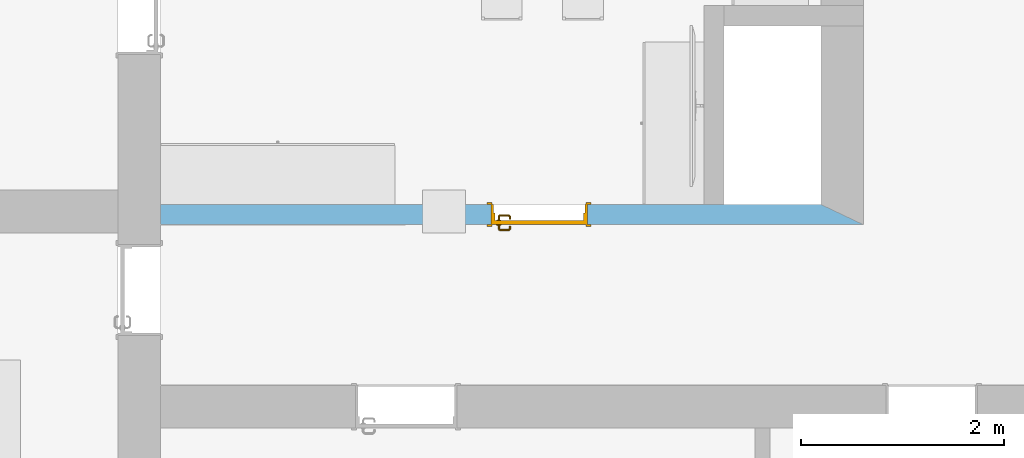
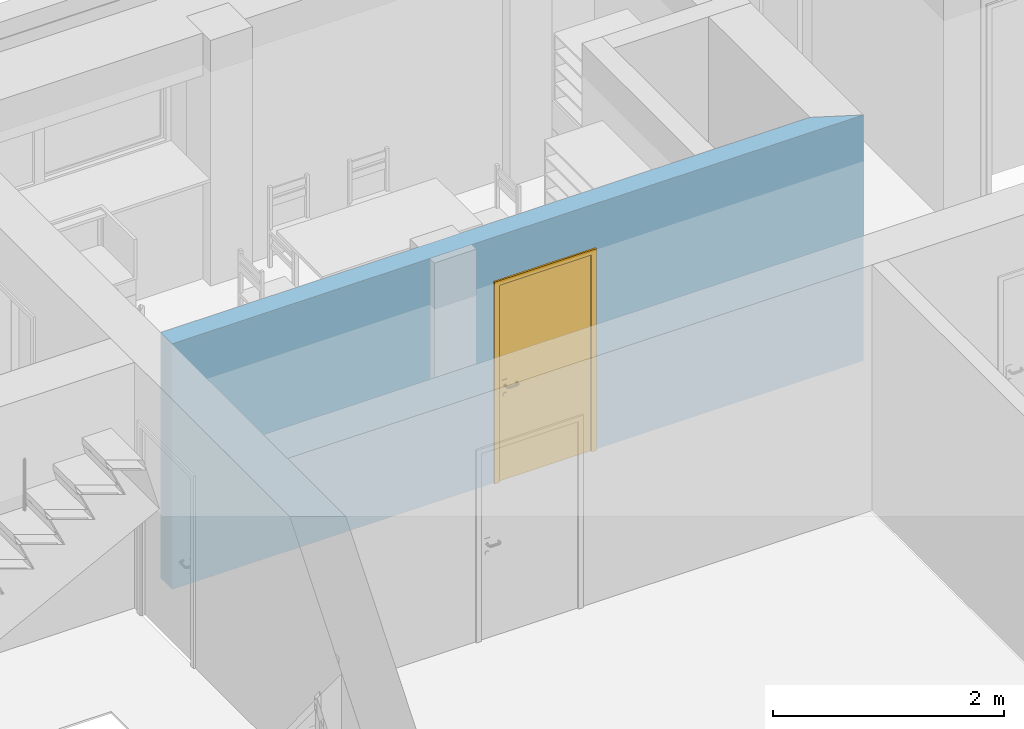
# One storey, part 43 of 127: 1 door, 1 opening, plus 1 element that does not belong to this part.
"""IFC2X3 building model written with IfcOpenShell, lengths in millimetres."""

from ifc_helpers import new_model, entity, si_unit, converted_unit, derived_unit, money_unit, direction, frame, origin_with_axes, origin_2d_with_axis, place, context, subcontext, project, spatial, polyline, rectangle, outline, extrude, open_shell, faceted_brep, surface_model, material, layer, layer_set, layer_usage, type_object, element, fill, save


model = new_model("IFC2X3")

# Units and contexts
model_context = context("Model", 3, precision=1e-05, world=origin_with_axes(), true_north=direction((0.0, 1.0)))
body_context = subcontext(model_context, "Body", "Model", "MODEL_VIEW")
ifc_project = project(units=[si_unit("LENGTHUNIT", "METRE", prefix="MILLI"), si_unit("AREAUNIT", "SQUARE_METRE"), si_unit("VOLUMEUNIT", "CUBIC_METRE"), converted_unit("PLANEANGLEUNIT", "DEGREE", entity("IfcPlaneAngleMeasure", 0.0174532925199), si_unit("PLANEANGLEUNIT", "RADIAN"), dimensions=[0, 0, 0, 0, 0, 0, 0]), si_unit("SOLIDANGLEUNIT", "STERADIAN"), money_unit("EUR"), converted_unit("TIMEUNIT", "Year", entity("IfcTimeMeasure", 31556926.0), si_unit("TIMEUNIT", "SECOND"), dimensions=[0, 0, 1, 0, 0, 0, 0]), si_unit("MASSUNIT", "GRAM", prefix="KILO"), si_unit("THERMODYNAMICTEMPERATUREUNIT", "DEGREE_CELSIUS"), si_unit("LUMINOUSINTENSITYUNIT", "LUMEN"), si_unit("ENERGYUNIT", "JOULE", prefix="MEGA"), derived_unit("THERMALCONDUCTANCEUNIT", [(si_unit("POWERUNIT", "WATT"), 1), (si_unit("LENGTHUNIT", "METRE"), -1), (si_unit("THERMODYNAMICTEMPERATUREUNIT", "KELVIN"), -1)]), derived_unit("SPECIFICHEATCAPACITYUNIT", [(si_unit("ENERGYUNIT", "JOULE"), 1), (si_unit("MASSUNIT", "GRAM", prefix="KILO"), -1), (si_unit("THERMODYNAMICTEMPERATUREUNIT", "KELVIN"), -1)]), derived_unit("MASSDENSITYUNIT", [(si_unit("MASSUNIT", "GRAM", prefix="KILO"), 1), (si_unit("VOLUMEUNIT", "CUBIC_METRE"), -1)])], contexts=[model_context])

# Site, building, storey
site_placement = place(None, origin_with_axes())
site = spatial("IfcSite", under=ifc_project, at=site_placement, Name="Site", CompositionType="ELEMENT")
building_placement = place(site_placement, origin_with_axes())
building = spatial("IfcBuilding", under=site, at=building_placement, Name="Building", CompositionType="ELEMENT")
storey_placement = place(building_placement, origin_with_axes())
storey = spatial("IfcBuildingStorey", under=building, at=storey_placement, Name="1 KORRUS", CompositionType="ELEMENT", Elevation=0.0)

# Wall, opening, door
ifc_material = material(Name="Kivi -Ol.Olev Konstruktsioon")
ifc_layer = layer(ifc_material, 200.0, ventilated="UNKNOWN")
ifc_layer_set = layer_set([ifc_layer], Name="ol.olev ss 200")
ifc_layer_usage = layer_usage(ifc_layer_set, "AXIS2", "POSITIVE", 0.0)
wall_type = type_object("IfcWallType", Name="SW - 023", PredefinedType="NOTDEFINED")
wall_placement = place(storey_placement, frame((30733.8006358, 42682.4199075, 0.0), z_axis=(0.0, 0.0, 1.0), x_axis=(1.0, 0.0, 0.0)))
wall = element("IfcWallStandardCase", 1, at=wall_placement, inside=storey, type_object=wall_type, material=ifc_layer_usage, Name="ol.olev ss 200", context=body_context, shape_type="SweptSolid", body=[
    extrude(outline(polyline([(420.0, 0.0), (7339.91916926, 0.0), (6919.91916926, 200.0), (420.0, 200.0), (420.0, 0.0)])), origin_with_axes(), (0.0, 0.0, 1.0), 2600.0),
])
opening_placement = place(wall_placement, frame((4146.81137721, 0.0, 0.0), z_axis=(0.0, 0.0, 1.0), x_axis=(1.0, 0.0, 0.0)))
opening = element("IfcOpeningElement", 2, at=opening_placement, cuts=wall, Name="Siseuks * Door 22", context=body_context, shape_type="SweptSolid", body=[
    extrude(rectangle(XDim=950.0, YDim=2100.0, at=origin_2d_with_axis()), frame((0.0, 200.0, 1050.0), z_axis=(0.0, 1.0, 0.0), x_axis=(1.0, 0.0, 0.0)), (0.0, 0.0, -1.0), 600.0),
    extrude(rectangle(XDim=1024.0, YDim=2137.0, at=origin_2d_with_axis()), frame((0.0, 200.0, 1068.5), z_axis=(0.0, 1.0, 0.0), x_axis=(1.0, 0.0, 0.0)), (0.0, 0.0, 1.0), 200.0),
    extrude(rectangle(XDim=1024.0, YDim=2137.0, at=origin_2d_with_axis()), frame((0.0, 0.0, 1068.5), z_axis=(0.0, -1.0, 0.0), x_axis=(1.0, 0.0, 0.0)), (0.0, 0.0, 1.0), 200.0),
])
door_style = type_object("IfcDoorStyle", Name="SU-B108   950×2\xa0100", ConstructionType="NOTDEFINED", OperationType="SINGLE_SWING_LEFT", ParameterTakesPrecedence=False, Sizeable=False)
door_placement = place(opening_placement, frame((475.0, 0.0, 0.0), z_axis=(0.0, 0.0, 1.0), x_axis=(-1.0, 0.0, 0.0)))
door = element("IfcDoor", 3, at=door_placement, inside=storey, type_object=door_style, Name="Siseuks * Door 22", OverallHeight=2100.0, OverallWidth=950.0, context=body_context, shape_type="SurfaceModel", body=[
    faceted_brep([(950.0, -115.0, 0.0), (950.0, -200.0, 0.0), (925.0, -200.0, 0.0), (925.0, -115.0, 0.0), (950.0, -115.0, 2100.0), (950.0, -200.0, 2100.0), (925.0, -200.0, 2075.0), (925.0, -115.0, 2075.0)], [[[0, 1, 2, 3]], [[4, 5, 1, 0]], [[1, 5, 6, 2]], [[3, 2, 6, 7]], [[0, 3, 7, 4]], [[7, 6, 5, 4]]]),
    faceted_brep([(0.0, -115.0, 2100.0), (0.0, -200.0, 2100.0), (25.0, -200.0, 2075.0), (25.0, -115.0, 2075.0), (0.0, -115.0, 0.0), (0.0, -200.0, 0.0), (25.0, -200.0, 0.0), (25.0, -115.0, 0.0)], [[[0, 1, 2, 3]], [[4, 5, 1, 0]], [[1, 5, 6, 2]], [[3, 2, 6, 7]], [[0, 3, 7, 4]], [[7, 6, 5, 4]]]),
    faceted_brep([(925.0, -115.0, 2075.0), (925.0, -200.0, 2075.0), (25.0, -200.0, 2075.0), (25.0, -115.0, 2075.0), (950.0, -115.0, 2100.0), (950.0, -200.0, 2100.0), (0.0, -200.0, 2100.0), (0.0, -115.0, 2100.0)], [[[0, 1, 2, 3]], [[4, 5, 1, 0]], [[1, 5, 6, 2]], [[3, 2, 6, 7]], [[0, 3, 7, 4]], [[7, 6, 5, 4]]]),
    faceted_brep([(987.0, -219.0, 0.0), (937.0, -219.0, 0.0), (937.0, -200.0, 0.0), (987.0, -200.0, 0.0), (987.0, -219.0, 2137.0), (937.0, -219.0, 2087.0), (937.0, -200.0, 2087.0), (987.0, -200.0, 2137.0)], [[[0, 1, 2, 3]], [[0, 4, 5, 1]], [[1, 5, 6, 2]], [[3, 2, 6, 7]], [[4, 0, 3, 7]], [[5, 4, 7, 6]]]),
    faceted_brep([(-36.9999999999, -219.0, 2137.0), (13.0, -219.0, 2087.0), (13.0, -200.0, 2087.0), (-36.9999999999, -200.0, 2137.0), (-36.9999999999, -219.0, 0.0), (13.0, -219.0, 0.0), (13.0, -200.0, 0.0), (-36.9999999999, -200.0, 0.0)], [[[0, 1, 2, 3]], [[0, 4, 5, 1]], [[1, 5, 6, 2]], [[3, 2, 6, 7]], [[4, 0, 3, 7]], [[5, 4, 7, 6]]]),
    faceted_brep([(987.0, -219.0, 2137.0), (937.0, -219.0, 2087.0), (937.0, -200.0, 2087.0), (987.0, -200.0, 2137.0), (-36.9999999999, -219.0, 2137.0), (13.0, -219.0, 2087.0), (13.0, -200.0, 2087.0), (-36.9999999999, -200.0, 2137.0)], [[[0, 1, 2, 3]], [[0, 4, 5, 1]], [[1, 5, 6, 2]], [[3, 2, 6, 7]], [[4, 0, 3, 7]], [[5, 4, 7, 6]]]),
    faceted_brep([(987.0, 19.0000000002, 0.0), (987.0, 0.0, 0.0), (937.0, 0.0, 0.0), (937.0, 19.0000000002, 0.0), (987.0, 19.0000000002, 2137.0), (987.0, 0.0, 2137.0), (937.0, 0.0, 2087.0), (937.0, 19.0000000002, 2087.0)], [[[0, 1, 2, 3]], [[4, 5, 1, 0]], [[1, 5, 6, 2]], [[3, 2, 6, 7]], [[0, 3, 7, 4]], [[7, 6, 5, 4]]]),
    faceted_brep([(-36.9999999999, 19.0000000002, 2137.0), (-36.9999999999, 0.0, 2137.0), (13.0, 0.0, 2087.0), (13.0, 19.0000000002, 2087.0), (-36.9999999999, 19.0000000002, 0.0), (-36.9999999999, 0.0, 0.0), (13.0, 0.0, 0.0), (13.0, 19.0000000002, 0.0)], [[[0, 1, 2, 3]], [[4, 5, 1, 0]], [[1, 5, 6, 2]], [[3, 2, 6, 7]], [[0, 3, 7, 4]], [[7, 6, 5, 4]]]),
    faceted_brep([(987.0, 19.0000000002, 2137.0), (987.0, 0.0, 2137.0), (937.0, 0.0, 2087.0), (937.0, 19.0000000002, 2087.0), (-36.9999999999, 19.0000000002, 2137.0), (-36.9999999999, 0.0, 2137.0), (13.0, 0.0, 2087.0), (13.0, 19.0000000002, 2087.0)], [[[0, 1, 2, 3]], [[4, 5, 1, 0]], [[1, 5, 6, 2]], [[3, 2, 6, 7]], [[0, 3, 7, 4]], [[7, 6, 5, 4]]]),
    faceted_brep([(910.0, -40.0, 0.0), (910.0, -115.0, 0.0), (910.0, -115.0, 2060.0), (910.0, -40.0, 2060.0), (922.0, -40.0, 0.0), (922.0, 0.0, 0.0), (950.0, 0.0, 0.0), (950.0, -115.0, 0.0), (950.0, -115.0, 2060.0), (922.0, -40.0, 2060.0), (950.0, 0.0, 2060.0), (922.0, 0.0, 2060.0)], [[[0, 1, 2, 3]], [[4, 5, 6, 7, 1, 0]], [[1, 7, 8, 2]], [[9, 3, 2, 8, 10, 11]], [[9, 4, 0, 3]], [[11, 5, 4, 9]], [[11, 10, 6, 5]], [[6, 10, 8, 7]]]),
    faceted_brep([(28.0, -40.0, 2060.0), (28.0, 0.0, 2060.0), (0.0, 0.0, 2060.0), (0.0, -115.0, 2060.0), (40.0000000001, -115.0, 2060.0), (40.0000000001, -40.0, 2060.0), (28.0, -40.0, 0.0), (28.0, 0.0, 0.0), (0.0, 0.0, 0.0), (0.0, -115.0, 0.0), (40.0000000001, -115.0, 0.0), (40.0000000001, -40.0, 0.0)], [[[0, 1, 2, 3, 4, 5]], [[0, 6, 7, 1]], [[7, 8, 2, 1]], [[2, 8, 9, 3]], [[3, 9, 10, 4]], [[5, 4, 10, 11]], [[5, 11, 6, 0]], [[6, 11, 10, 9, 8, 7]]]),
    faceted_brep([(922.0, 0.0, 2072.0), (28.0, 0.0, 2072.0), (28.0, 0.0, 2060.0), (0.0, 0.0, 2060.0), (0.0, 0.0, 2100.0), (950.0, 0.0, 2100.0), (950.0, 0.0, 2060.0), (922.0, 0.0, 2060.0), (922.0, -40.0, 2072.0), (28.0, -40.0, 2072.0), (28.0, -40.0, 2060.0), (40.0000000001, -40.0, 2060.0), (40.0000000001, -115.0, 2060.0), (0.0, -115.0, 2060.0), (0.0, -115.0, 2100.0), (950.0, -115.0, 2100.0), (950.0, -115.0, 2060.0), (922.0, -40.0, 2060.0), (910.0, -115.0, 2060.0), (910.0, -40.0, 2060.0)], [[[0, 1, 2, 3, 4, 5, 6, 7]], [[0, 8, 9, 1]], [[1, 9, 10, 2]], [[10, 11, 12, 13, 3, 2]], [[4, 3, 13, 14]], [[5, 4, 14, 15]], [[6, 5, 15, 16]], [[17, 7, 6, 16, 18, 19]], [[7, 17, 8, 0]], [[10, 9, 8, 17, 19, 11]], [[19, 18, 12, 11]], [[12, 18, 16, 15, 14, 13]]]),
    faceted_brep([(900.5, -40.0, 1060.0), (843.5, -40.0, 1060.0), (843.5, -42.9999999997, 1060.0), (900.5, -42.9999999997, 1060.0), (900.5, -40.0, 870.0), (843.5, -40.0, 870.0), (843.5, -42.9999999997, 870.0), (900.5, -42.9999999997, 870.0)], [[[0, 1, 2, 3]], [[0, 4, 5, 1]], [[1, 5, 6, 2]], [[3, 2, 6, 7]], [[4, 0, 3, 7]], [[5, 4, 7, 6]]]),
    surface_model("IfcShellBasedSurfaceModel", [(862.0, -52.9999999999, 1000.0), (864.928932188, -52.9999999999, 992.928932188), (864.928932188, -72.3035606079, 992.928932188), (862.0, -72.0150859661, 1000.0), (872.0, -52.9999999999, 990.0), (872.0, -73.0000000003, 990.0), (863.816790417, -77.8946748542, 992.928932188), (861.057796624, -76.7518622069, 1000.0), (864.928932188, -52.9999999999, 1007.07106781), (864.928932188, -72.3035606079, 1007.07106781), (879.071067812, -52.9999999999, 992.928932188), (879.071067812, -73.6964393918, 992.928932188), (870.47759065, -80.6536686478, 990.0), (861.044179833, -82.0441798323, 992.928932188), (858.932537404, -79.9325374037, 1000.0), (863.816790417, -77.8946748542, 1007.07106781), (872.0, -52.9999999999, 1010.0), (872.0, -73.0000000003, 1010.0), (882.0, -52.9999999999, 1000.0), (882.0, -73.9849140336, 1000.0), (877.138390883, -83.4126624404, 992.928932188), (866.142135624, -87.1421356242, 990.0), (856.894674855, -84.8167904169, 992.928932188), (855.751862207, -82.0577966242, 1000.0), (861.044179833, -82.0441798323, 1007.07106781), (870.47759065, -80.6536686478, 1010.0), (879.071067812, -52.9999999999, 1007.07106781), (879.071067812, -73.6964393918, 1007.07106781), (879.897384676, -84.5554750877, 1000.0), (871.240091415, -92.2400914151, 992.928932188), (859.653668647, -91.4775906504, 990.0), (851.303560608, -85.9289321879, 992.928932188), (851.015085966, -82.9999999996, 1000.0), (856.894674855, -84.8167904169, 1007.07106781), (866.142135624, -87.1421356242, 1010.0), (877.138390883, -83.4126624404, 1007.07106781), (873.351733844, -94.3517338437, 1000.0), (862.41266244, -98.1383908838, 992.928932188), (852.0, -92.9999999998, 990.0), (782.696439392, -85.9289321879, 992.928932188), (782.984914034, -82.9999999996, 1000.0), (851.303560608, -85.9289321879, 1007.07106781), (859.653668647, -91.4775906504, 1010.0), (871.240091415, -92.2400914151, 1007.07106781), (863.555475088, -100.897384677, 1000.0), (852.696439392, -100.071067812, 992.928932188), (782.0, -92.9999999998, 990.0), (777.105325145, -84.8167904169, 992.928932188), (778.248137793, -82.0577966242, 1000.0), (782.696439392, -85.9289321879, 1007.07106781), (852.0, -92.9999999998, 1010.0), (862.41266244, -98.1383908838, 1007.07106781), (852.984914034, -103.0, 1000.0), (781.303560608, -100.071067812, 992.928932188), (774.346331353, -91.4775906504, 990.0), (772.955820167, -82.0441798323, 992.928932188), (775.067462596, -79.9325374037, 1000.0), (777.105325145, -84.8167904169, 1007.07106781), (782.0, -92.9999999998, 1010.0), (852.696439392, -100.071067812, 1007.07106781), (781.015085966, -103.0, 1000.0), (771.58733756, -98.1383908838, 992.928932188), (767.857864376, -87.1421356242, 990.0), (770.183209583, -77.8946748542, 992.928932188), (772.942203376, -76.7518622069, 1000.0), (772.955820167, -82.0441798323, 1007.07106781), (774.346331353, -91.4775906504, 1010.0), (781.303560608, -100.071067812, 1007.07106781), (770.444524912, -100.897384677, 1000.0), (762.759908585, -92.2400914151, 992.928932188), (763.52240935, -80.6536686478, 990.0), (769.071067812, -72.3035606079, 992.928932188), (772.0, -72.0150859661, 1000.0), (770.183209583, -77.8946748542, 1007.07106781), (767.857864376, -87.1421356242, 1010.0), (771.58733756, -98.1383908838, 1007.07106781), (760.648266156, -94.3517338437, 1000.0), (756.861609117, -83.4126624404, 992.928932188), (762.0, -73.0000000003, 990.0), (769.071067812, -52.9999999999, 992.928932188), (772.0, -52.9999999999, 1000.0), (769.071067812, -72.3035606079, 1007.07106781), (763.52240935, -80.6536686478, 1010.0), (762.759908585, -92.2400914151, 1007.07106781), (754.102615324, -84.5554750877, 1000.0), (754.928932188, -73.6964393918, 992.928932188), (762.0, -52.9999999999, 990.0), (754.928932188, -52.9999999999, 992.928932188), (752.0, -52.9999999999, 1000.0), (754.928932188, -52.9999999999, 1007.07106781), (762.0, -52.9999999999, 1010.0), (769.071067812, -52.9999999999, 1007.07106781), (762.0, -73.0000000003, 1010.0), (756.861609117, -83.4126624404, 1007.07106781), (752.0, -73.9849140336, 1000.0), (754.928932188, -73.6964393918, 1007.07106781)], [open_shell([[[0, 1, 2, 3]], [[1, 4, 5, 2]], [[3, 2, 6, 7]], [[8, 0, 3, 9]], [[4, 10, 11, 5]], [[2, 5, 12, 6]], [[7, 6, 13, 14]], [[9, 3, 7, 15]], [[16, 8, 9, 17]], [[10, 18, 19, 11]], [[5, 11, 20, 12]], [[6, 12, 21, 13]], [[14, 13, 22, 23]], [[15, 7, 14, 24]], [[17, 9, 15, 25]], [[26, 16, 17, 27]], [[18, 26, 27, 19]], [[11, 19, 28, 20]], [[12, 20, 29, 21]], [[13, 21, 30, 22]], [[23, 22, 31, 32]], [[24, 14, 23, 33]], [[25, 15, 24, 34]], [[27, 17, 25, 35]], [[19, 27, 35, 28]], [[20, 28, 36, 29]], [[21, 29, 37, 30]], [[22, 30, 38, 31]], [[32, 31, 39, 40]], [[33, 23, 32, 41]], [[34, 24, 33, 42]], [[35, 25, 34, 43]], [[28, 35, 43, 36]], [[29, 36, 44, 37]], [[30, 37, 45, 38]], [[31, 38, 46, 39]], [[40, 39, 47, 48]], [[41, 32, 40, 49]], [[42, 33, 41, 50]], [[43, 34, 42, 51]], [[36, 43, 51, 44]], [[37, 44, 52, 45]], [[38, 45, 53, 46]], [[39, 46, 54, 47]], [[48, 47, 55, 56]], [[49, 40, 48, 57]], [[50, 41, 49, 58]], [[51, 42, 50, 59]], [[44, 51, 59, 52]], [[45, 52, 60, 53]], [[46, 53, 61, 54]], [[47, 54, 62, 55]], [[56, 55, 63, 64]], [[57, 48, 56, 65]], [[58, 49, 57, 66]], [[59, 50, 58, 67]], [[52, 59, 67, 60]], [[53, 60, 68, 61]], [[54, 61, 69, 62]], [[55, 62, 70, 63]], [[64, 63, 71, 72]], [[65, 56, 64, 73]], [[66, 57, 65, 74]], [[67, 58, 66, 75]], [[60, 67, 75, 68]], [[61, 68, 76, 69]], [[62, 69, 77, 70]], [[63, 70, 78, 71]], [[72, 71, 79, 80]], [[73, 64, 72, 81]], [[74, 65, 73, 82]], [[75, 66, 74, 83]], [[68, 75, 83, 76]], [[69, 76, 84, 77]], [[70, 77, 85, 78]], [[71, 78, 86, 79]], [[80, 79, 86, 87, 88, 89, 90, 91]], [[81, 72, 80, 91]], [[82, 73, 81, 92]], [[83, 74, 82, 93]], [[76, 83, 93, 84]], [[77, 84, 94, 85]], [[78, 85, 87, 86]], [[85, 94, 88, 87]], [[94, 95, 89, 88]], [[95, 92, 90, 89]], [[92, 81, 91, 90]], [[93, 82, 92, 95]], [[84, 93, 95, 94]]])]),
    faceted_brep([(861.607695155, -52.9999999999, 994.0), (860.0, -52.9999999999, 1000.0), (859.0, -42.9999999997, 1000.0), (860.741669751, -42.9999999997, 993.5), (866.0, -52.9999999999, 989.607695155), (872.0, -52.9999999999, 988.0), (878.0, -52.9999999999, 989.607695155), (882.392304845, -52.9999999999, 994.0), (884.0, -52.9999999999, 1000.0), (882.392304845, -52.9999999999, 1006.0), (878.0, -52.9999999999, 1010.39230485), (872.0, -52.9999999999, 1012.0), (866.0, -52.9999999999, 1010.39230485), (861.607695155, -52.9999999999, 1006.0), (860.741669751, -42.9999999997, 1006.5), (865.5, -42.9999999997, 1011.25833025), (872.0, -42.9999999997, 1013.0), (878.5, -42.9999999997, 1011.25833025), (883.258330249, -42.9999999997, 1006.5), (885.0, -42.9999999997, 1000.0), (883.258330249, -42.9999999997, 993.5), (878.5, -42.9999999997, 988.741669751), (872.0, -42.9999999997, 987.0), (865.5, -42.9999999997, 988.741669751)], [[[0, 1, 2, 3]], [[1, 0, 4, 5, 6, 7, 8, 9, 10, 11, 12, 13]], [[1, 13, 14, 2]], [[2, 14, 15, 16, 17, 18, 19, 20, 21, 22, 23, 3]], [[4, 0, 3, 23]], [[5, 4, 23, 22]], [[6, 5, 22, 21]], [[7, 6, 21, 20]], [[8, 7, 20, 19]], [[9, 8, 19, 18]], [[10, 9, 18, 17]], [[11, 10, 17, 16]], [[12, 11, 16, 15]], [[13, 12, 15, 14]]]),
    faceted_brep([(854.679491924, -46.9999999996, 895.0), (852.0, -46.9999999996, 905.0), (850.0, -42.9999999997, 905.0), (852.947441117, -42.9999999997, 894.0), (862.0, -46.9999999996, 887.679491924), (872.0, -46.9999999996, 885.0), (882.0, -46.9999999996, 887.679491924), (889.320508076, -46.9999999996, 895.0), (892.0, -46.9999999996, 905.0), (889.320508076, -46.9999999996, 915.0), (882.0, -46.9999999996, 922.320508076), (872.0, -46.9999999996, 925.0), (862.0, -46.9999999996, 922.320508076), (854.679491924, -46.9999999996, 915.0), (852.947441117, -42.9999999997, 916.0), (861.0, -42.9999999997, 924.052558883), (872.0, -42.9999999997, 927.0), (883.0, -42.9999999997, 924.052558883), (891.052558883, -42.9999999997, 916.0), (894.0, -42.9999999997, 905.0), (891.052558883, -42.9999999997, 894.0), (883.0, -42.9999999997, 885.947441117), (872.0, -42.9999999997, 883.0), (861.0, -42.9999999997, 885.947441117)], [[[0, 1, 2, 3]], [[1, 0, 4, 5, 6, 7, 8, 9, 10, 11, 12, 13]], [[1, 13, 14, 2]], [[2, 14, 15, 16, 17, 18, 19, 20, 21, 22, 23, 3]], [[4, 0, 3, 23]], [[5, 4, 23, 22]], [[6, 5, 22, 21]], [[7, 6, 21, 20]], [[8, 7, 20, 19]], [[9, 8, 19, 18]], [[10, 9, 18, 17]], [[11, 10, 17, 16]], [[12, 11, 16, 15]], [[13, 12, 15, 14]]]),
    faceted_brep([(867.050252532, -49.0, 909.050252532), (865.0, -49.0, 914.0), (864.0, -46.9999999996, 914.0), (866.343145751, -46.9999999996, 908.343145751), (872.0, -49.0, 907.0), (876.949747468, -49.0, 909.050252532), (879.0, -49.0, 914.0), (876.949747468, -49.0, 918.949747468), (872.0, -49.0, 921.0), (867.050252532, -49.0, 918.949747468), (866.343145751, -46.9999999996, 919.656854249), (872.0, -46.9999999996, 922.0), (877.656854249, -46.9999999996, 919.656854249), (880.0, -46.9999999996, 914.0), (877.656854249, -46.9999999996, 908.343145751), (872.0, -46.9999999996, 906.0)], [[[0, 1, 2, 3]], [[1, 0, 4, 5, 6, 7, 8, 9]], [[1, 9, 10, 2]], [[2, 10, 11, 12, 13, 14, 15, 3]], [[4, 0, 3, 15]], [[5, 4, 15, 14]], [[6, 5, 14, 13]], [[7, 6, 13, 12]], [[8, 7, 12, 11]], [[9, 8, 11, 10]]]),
    faceted_brep([(900.5, 0.0, 1060.0), (900.5, 2.9999999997, 1060.0), (843.5, 2.9999999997, 1060.0), (843.5, 0.0, 1060.0), (900.5, 0.0, 870.0), (900.5, 2.9999999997, 870.0), (843.5, 2.9999999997, 870.0), (843.5, 0.0, 870.0)], [[[0, 1, 2, 3]], [[4, 5, 1, 0]], [[1, 5, 6, 2]], [[3, 2, 6, 7]], [[0, 3, 7, 4]], [[7, 6, 5, 4]]]),
    surface_model("IfcShellBasedSurfaceModel", [(862.0, 12.9999999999, 1000.0), (862.0, 32.0150859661, 1000.0), (864.928932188, 32.3035606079, 992.928932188), (864.928932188, 12.9999999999, 992.928932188), (864.928932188, 12.9999999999, 1007.07106781), (864.928932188, 32.3035606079, 1007.07106781), (861.057796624, 36.751862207, 1000.0), (863.816790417, 37.8946748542, 992.928932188), (872.0, 33.0000000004, 990.0), (872.0, 12.9999999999, 990.0), (872.0, 12.9999999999, 1010.0), (872.0, 33.0000000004, 1010.0), (863.816790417, 37.8946748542, 1007.07106781), (858.932537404, 39.9325374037, 1000.0), (861.044179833, 42.0441798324, 992.928932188), (870.47759065, 40.6536686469, 990.0), (879.071067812, 33.6964393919, 992.928932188), (879.071067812, 12.9999999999, 992.928932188), (879.071067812, 12.9999999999, 1007.07106781), (879.071067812, 33.6964393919, 1007.07106781), (870.47759065, 40.6536686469, 1010.0), (861.044179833, 42.0441798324, 1007.07106781), (855.751862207, 42.0577966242, 1000.0), (856.894674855, 44.8167904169, 992.928932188), (866.142135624, 47.1421356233, 990.0), (877.138390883, 43.4126624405, 992.928932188), (882.0, 33.9849140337, 1000.0), (882.0, 12.9999999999, 1000.0), (877.138390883, 43.4126624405, 1007.07106781), (866.142135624, 47.1421356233, 1010.0), (856.894674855, 44.8167904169, 1007.07106781), (851.015085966, 42.9999999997, 1000.0), (851.303560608, 45.928932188, 992.928932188), (859.653668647, 51.4775906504, 990.0), (871.240091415, 52.2400914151, 992.928932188), (879.897384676, 44.5554750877, 1000.0), (871.240091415, 52.2400914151, 1007.07106781), (859.653668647, 51.4775906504, 1010.0), (851.303560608, 45.928932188, 1007.07106781), (782.984914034, 42.9999999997, 1000.0), (782.696439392, 45.928932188, 992.928932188), (852.0, 52.9999999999, 990.0), (862.41266244, 58.138390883, 992.928932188), (873.351733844, 54.3517338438, 1000.0), (862.41266244, 58.138390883, 1007.07106781), (852.0, 52.9999999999, 1010.0), (782.696439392, 45.928932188, 1007.07106781), (778.248137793, 42.0577966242, 1000.0), (777.105325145, 44.8167904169, 992.928932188), (782.0, 52.9999999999, 990.0), (852.696439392, 60.0710678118, 992.928932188), (863.555475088, 60.8973846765, 1000.0), (852.696439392, 60.0710678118, 1007.07106781), (782.0, 52.9999999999, 1010.0), (777.105325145, 44.8167904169, 1007.07106781), (775.067462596, 39.9325374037, 1000.0), (772.955820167, 42.0441798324, 992.928932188), (774.346331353, 51.4775906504, 990.0), (781.303560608, 60.0710678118, 992.928932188), (852.984914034, 63.0000000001, 1000.0), (781.303560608, 60.0710678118, 1007.07106781), (774.346331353, 51.4775906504, 1010.0), (772.955820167, 42.0441798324, 1007.07106781), (772.942203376, 36.751862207, 1000.0), (770.183209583, 37.8946748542, 992.928932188), (767.857864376, 47.1421356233, 990.0), (771.58733756, 58.138390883, 992.928932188), (781.015085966, 63.0000000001, 1000.0), (771.58733756, 58.138390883, 1007.07106781), (767.857864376, 47.1421356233, 1010.0), (770.183209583, 37.8946748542, 1007.07106781), (772.0, 32.0150859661, 1000.0), (769.071067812, 32.3035606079, 992.928932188), (763.52240935, 40.6536686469, 990.0), (762.759908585, 52.2400914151, 992.928932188), (770.444524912, 60.8973846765, 1000.0), (762.759908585, 52.2400914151, 1007.07106781), (763.52240935, 40.6536686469, 1010.0), (769.071067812, 32.3035606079, 1007.07106781), (772.0, 12.9999999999, 1000.0), (769.071067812, 12.9999999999, 992.928932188), (762.0, 33.0000000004, 990.0), (756.861609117, 43.4126624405, 992.928932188), (760.648266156, 54.3517338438, 1000.0), (756.861609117, 43.4126624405, 1007.07106781), (762.0, 33.0000000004, 1010.0), (769.071067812, 12.9999999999, 1007.07106781), (762.0, 12.9999999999, 1010.0), (754.928932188, 12.9999999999, 1007.07106781), (752.0, 12.9999999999, 1000.0), (754.928932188, 12.9999999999, 992.928932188), (762.0, 12.9999999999, 990.0), (754.928932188, 33.6964393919, 992.928932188), (754.102615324, 44.5554750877, 1000.0), (754.928932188, 33.6964393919, 1007.07106781), (752.0, 33.9849140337, 1000.0)], [open_shell([[[0, 1, 2, 3]], [[4, 5, 1, 0]], [[1, 6, 7, 2]], [[3, 2, 8, 9]], [[10, 11, 5, 4]], [[5, 12, 6, 1]], [[6, 13, 14, 7]], [[2, 7, 15, 8]], [[9, 8, 16, 17]], [[18, 19, 11, 10]], [[11, 20, 12, 5]], [[12, 21, 13, 6]], [[13, 22, 23, 14]], [[7, 14, 24, 15]], [[8, 15, 25, 16]], [[17, 16, 26, 27]], [[27, 26, 19, 18]], [[19, 28, 20, 11]], [[20, 29, 21, 12]], [[21, 30, 22, 13]], [[22, 31, 32, 23]], [[14, 23, 33, 24]], [[15, 24, 34, 25]], [[16, 25, 35, 26]], [[26, 35, 28, 19]], [[28, 36, 29, 20]], [[29, 37, 30, 21]], [[30, 38, 31, 22]], [[31, 39, 40, 32]], [[23, 32, 41, 33]], [[24, 33, 42, 34]], [[25, 34, 43, 35]], [[35, 43, 36, 28]], [[36, 44, 37, 29]], [[37, 45, 38, 30]], [[38, 46, 39, 31]], [[39, 47, 48, 40]], [[32, 40, 49, 41]], [[33, 41, 50, 42]], [[34, 42, 51, 43]], [[43, 51, 44, 36]], [[44, 52, 45, 37]], [[45, 53, 46, 38]], [[46, 54, 47, 39]], [[47, 55, 56, 48]], [[40, 48, 57, 49]], [[41, 49, 58, 50]], [[42, 50, 59, 51]], [[51, 59, 52, 44]], [[52, 60, 53, 45]], [[53, 61, 54, 46]], [[54, 62, 55, 47]], [[55, 63, 64, 56]], [[48, 56, 65, 57]], [[49, 57, 66, 58]], [[50, 58, 67, 59]], [[59, 67, 60, 52]], [[60, 68, 61, 53]], [[61, 69, 62, 54]], [[62, 70, 63, 55]], [[63, 71, 72, 64]], [[56, 64, 73, 65]], [[57, 65, 74, 66]], [[58, 66, 75, 67]], [[67, 75, 68, 60]], [[68, 76, 69, 61]], [[69, 77, 70, 62]], [[70, 78, 71, 63]], [[71, 79, 80, 72]], [[64, 72, 81, 73]], [[65, 73, 82, 74]], [[66, 74, 83, 75]], [[75, 83, 76, 68]], [[76, 84, 77, 69]], [[77, 85, 78, 70]], [[78, 86, 79, 71]], [[79, 86, 87, 88, 89, 90, 91, 80]], [[72, 80, 91, 81]], [[73, 81, 92, 82]], [[74, 82, 93, 83]], [[83, 93, 84, 76]], [[84, 94, 85, 77]], [[85, 87, 86, 78]], [[94, 88, 87, 85]], [[95, 89, 88, 94]], [[92, 90, 89, 95]], [[81, 91, 90, 92]], [[82, 92, 95, 93]], [[93, 95, 94, 84]]])]),
    faceted_brep([(861.607695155, 12.9999999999, 994.0), (860.741669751, 2.9999999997, 993.5), (859.0, 2.9999999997, 1000.0), (860.0, 12.9999999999, 1000.0), (866.0, 12.9999999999, 989.607695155), (865.5, 2.9999999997, 988.741669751), (872.0, 2.9999999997, 987.0), (878.5, 2.9999999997, 988.741669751), (883.258330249, 2.9999999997, 993.5), (885.0, 2.9999999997, 1000.0), (883.258330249, 2.9999999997, 1006.5), (878.5, 2.9999999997, 1011.25833025), (872.0, 2.9999999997, 1013.0), (865.5, 2.9999999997, 1011.25833025), (860.741669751, 2.9999999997, 1006.5), (861.607695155, 12.9999999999, 1006.0), (866.0, 12.9999999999, 1010.39230485), (872.0, 12.9999999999, 1012.0), (878.0, 12.9999999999, 1010.39230485), (882.392304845, 12.9999999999, 1006.0), (884.0, 12.9999999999, 1000.0), (882.392304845, 12.9999999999, 994.0), (878.0, 12.9999999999, 989.607695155), (872.0, 12.9999999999, 988.0)], [[[0, 1, 2, 3]], [[4, 5, 1, 0]], [[2, 1, 5, 6, 7, 8, 9, 10, 11, 12, 13, 14]], [[3, 2, 14, 15]], [[3, 15, 16, 17, 18, 19, 20, 21, 22, 23, 4, 0]], [[23, 6, 5, 4]], [[22, 7, 6, 23]], [[21, 8, 7, 22]], [[20, 9, 8, 21]], [[19, 10, 9, 20]], [[18, 11, 10, 19]], [[17, 12, 11, 18]], [[16, 13, 12, 17]], [[15, 14, 13, 16]]]),
    faceted_brep([(854.679491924, 6.99999999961, 895.0), (852.947441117, 2.9999999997, 894.0), (850.0, 2.9999999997, 905.0), (852.0, 6.99999999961, 905.0), (862.0, 6.99999999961, 887.679491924), (861.0, 2.9999999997, 885.947441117), (872.0, 2.9999999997, 883.0), (883.0, 2.9999999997, 885.947441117), (891.052558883, 2.9999999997, 894.0), (894.0, 2.9999999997, 905.0), (891.052558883, 2.9999999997, 916.0), (883.0, 2.9999999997, 924.052558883), (872.0, 2.9999999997, 927.0), (861.0, 2.9999999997, 924.052558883), (852.947441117, 2.9999999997, 916.0), (854.679491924, 6.99999999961, 915.0), (862.0, 6.99999999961, 922.320508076), (872.0, 6.99999999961, 925.0), (882.0, 6.99999999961, 922.320508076), (889.320508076, 6.99999999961, 915.0), (892.0, 6.99999999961, 905.0), (889.320508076, 6.99999999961, 895.0), (882.0, 6.99999999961, 887.679491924), (872.0, 6.99999999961, 885.0)], [[[0, 1, 2, 3]], [[4, 5, 1, 0]], [[2, 1, 5, 6, 7, 8, 9, 10, 11, 12, 13, 14]], [[3, 2, 14, 15]], [[3, 15, 16, 17, 18, 19, 20, 21, 22, 23, 4, 0]], [[23, 6, 5, 4]], [[22, 7, 6, 23]], [[21, 8, 7, 22]], [[20, 9, 8, 21]], [[19, 10, 9, 20]], [[18, 11, 10, 19]], [[17, 12, 11, 18]], [[16, 13, 12, 17]], [[15, 14, 13, 16]]]),
    faceted_brep([(867.050252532, 9.00000000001, 909.050252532), (866.343145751, 6.99999999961, 908.343145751), (864.0, 6.99999999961, 914.0), (865.0, 9.00000000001, 914.0), (872.0, 9.00000000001, 907.0), (872.0, 6.99999999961, 906.0), (877.656854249, 6.99999999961, 908.343145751), (880.0, 6.99999999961, 914.0), (877.656854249, 6.99999999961, 919.656854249), (872.0, 6.99999999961, 922.0), (866.343145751, 6.99999999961, 919.656854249), (867.050252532, 9.00000000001, 918.949747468), (872.0, 9.00000000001, 921.0), (876.949747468, 9.00000000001, 918.949747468), (879.0, 9.00000000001, 914.0), (876.949747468, 9.00000000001, 909.050252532)], [[[0, 1, 2, 3]], [[4, 5, 1, 0]], [[2, 1, 5, 6, 7, 8, 9, 10]], [[3, 2, 10, 11]], [[3, 11, 12, 13, 14, 15, 4, 0]], [[15, 6, 5, 4]], [[14, 7, 6, 15]], [[13, 8, 7, 14]], [[12, 9, 8, 13]], [[11, 10, 9, 12]]]),
    faceted_brep([(28.0, 0.0, 0.0), (922.0, 0.0, 0.0), (922.0, -40.0, 0.0), (28.0, -40.0, 0.0), (28.0, 0.0, 2072.0), (922.0, 0.0, 2072.0), (922.0, -40.0, 2072.0), (28.0, -40.0, 2072.0)], [[[0, 1, 2, 3]], [[0, 4, 5, 1]], [[1, 5, 6, 2]], [[3, 2, 6, 7]], [[4, 0, 3, 7]], [[5, 4, 7, 6]]]),
])
fill(opening, door)

save(model, "model.ifc")
